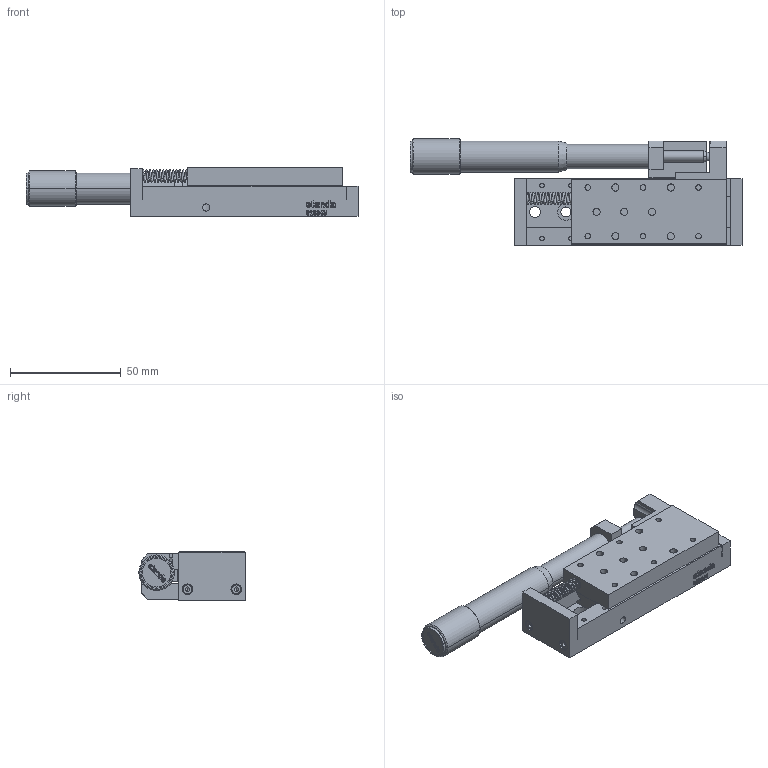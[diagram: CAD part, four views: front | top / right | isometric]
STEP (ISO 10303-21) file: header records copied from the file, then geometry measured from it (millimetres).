
FILE_DESCRIPTION (( 'STEP AP203' ), '1' );
FILE_NAME ('7T173-20-50.STEP', '2008-02-21T13:58:16', ( 'STANDA' ), ( '' ), 'SwSTEP 2.0', 'SolidWorks 2003240', '' );
FILE_SCHEMA (( 'CONFIG_CONTROL_DESIGN' ));
Length unit declared in the file: millimetre
Products named in the file (1): 7T173-20-50
Bounding box: 149.88 x 48 x 22 mm (x, y, z)
Volume: 68093.9 mm3; surface area: 37492.1 mm2
Topology: 1 solids, 25 shells, 1044 faces, 2589 edges, 1670 vertices
Faces by surface type: plane 450, cylinder 272, bspline 233, cone 89
Entity records: 37206 total; most frequent: CARTESIAN_POINT 13686, ORIENTED_EDGE 5092, DIRECTION 4257, EDGE_CURVE 2546, VERTEX_POINT 1671, AXIS2_PLACEMENT_3D 1468, VECTOR 1321, LINE 1321
